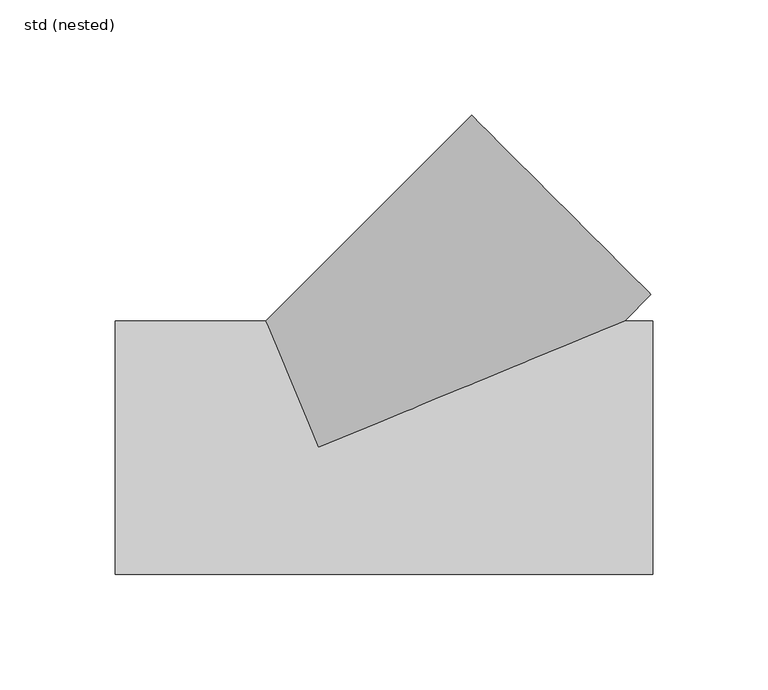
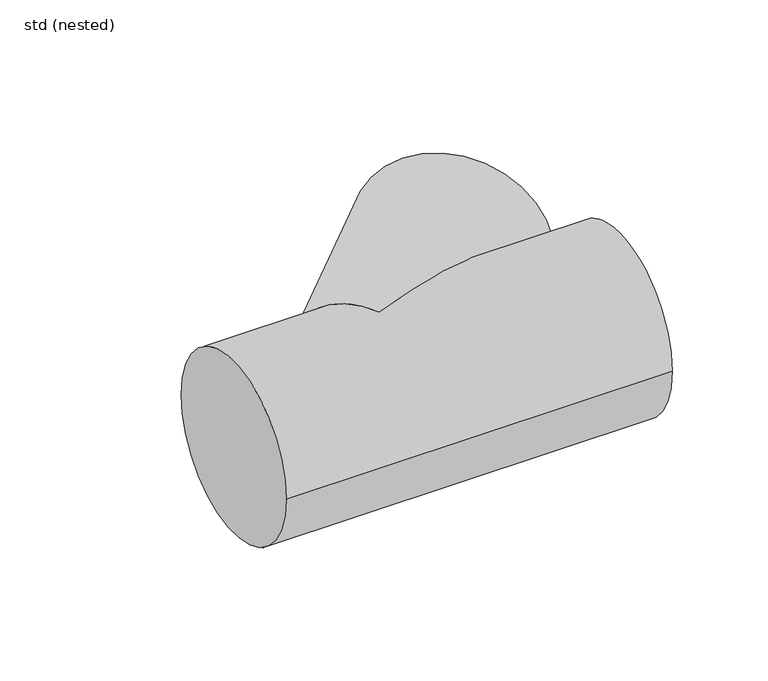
"""IFC4 building model written with IfcOpenShell, lengths in millimetres: pipe fitting geometry, ZZZ_do not use_PIF_ST_UN_ACO pipe branch_ACO : std (nested)."""

from ifc_helpers import new_model, si_unit, frame, origin, place, context, project, spatial, circle_curve, ellipse_curve, source, transform, mapped, element, save
from ifc_brep_helpers import plane_surface, cylinder_surface, advanced_brep


def std_nested_1dc62a2a(model_context):
    return source(origin(), model_context, "Body", "AdvancedBrep", [
        advanced_brep(
        [(145.0, -55.0, 0.0), (145.0, 55.0, 0.0), (-88.0, -55.0, 0.0), (-88.0, 55.0, 0.0), (-22.7787438, 55.0, 0.0), (0.0, 0.0, -55.0), (132.7992457, 55.0, 0.0), (0.0, 0.0, 55.0), (144.2559763, 66.4545957, 0.0), (66.4814785, 144.2435891, 0.0)],
        [
            (0, 1, circle_curve(frame((145.0, 0.0, 0.0), z_axis=(1.0, 0.0, 0.0), x_axis=(0.0, 1.0, 0.0)), 55.0)),
            (1, 0, circle_curve(frame((145.0, 0.0, 0.0), z_axis=(1.0, 0.0, 0.0), x_axis=(0.0, 1.0, 0.0)), 55.0)),
            (2, 3, circle_curve(frame((-88.0, 0.0, 0.0), z_axis=(-1.0, 0.0, 0.0), x_axis=(0.0, 1.0, 0.0)), 55.0)),
            (3, 2, circle_curve(frame((-88.0, 0.0, 0.0), z_axis=(-1.0, 0.0, 0.0), x_axis=(0.0, 1.0, 0.0)), 55.0)),
            (0, 2),
            (3, 4),
            (4, 5, ellipse_curve(frame((0.0, 0.0, 0.0), z_axis=(-0.9238973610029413, -0.3826403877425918, 0.0), x_axis=(0.3826403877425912, -0.9238973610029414, 0.0)), 59.5304222, 55.0)),
            (5, 6, ellipse_curve(frame((0.0, 0.0, 0.0), z_axis=(0.38264038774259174, -0.9238973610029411, 0.0), x_axis=(0.9238973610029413, 0.3826403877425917, 0.0)), 143.7380939, 55.0)),
            (6, 1),
            (6, 7, ellipse_curve(frame((0.0, 0.0, 0.0), z_axis=(0.38264038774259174, -0.9238973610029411, 0.0), x_axis=(0.9238973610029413, 0.3826403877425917, 0.0)), 143.7380939, 55.0)),
            (7, 4, ellipse_curve(frame((0.0, 0.0, 0.0), z_axis=(-0.9238973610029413, -0.3826403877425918, 0.0), x_axis=(0.3826403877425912, -0.9238973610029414, 0.0)), 59.5304222, 55.0)),
            (8, 9, circle_curve(frame((105.3687274, 105.3490924, 0.0), z_axis=(0.707172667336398, 0.7070408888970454, 0.0), x_axis=(-0.7070408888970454, 0.707172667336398, 0.0)), 55.0)),
            (9, 8, circle_curve(frame((105.3687274, 105.3490924, 0.0), z_axis=(0.707172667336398, 0.7070408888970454, 0.0), x_axis=(-0.7070408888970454, 0.707172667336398, 0.0)), 55.0)),
            (9, 4),
            (6, 8),
        ],
        [
            plane_surface(frame((145.0, 55.0, 0.0), z_axis=(1.0, 0.0, 0.0), x_axis=(0.0, 0.0, 1.0))),
            plane_surface(frame((-88.0, 55.0, 0.0), z_axis=(-1.0, 0.0, 0.0), x_axis=(0.0, 0.0, -1.0))),
            cylinder_surface(frame((-88.0, 0.0, 0.0), z_axis=(1.0, 0.0, 0.0), x_axis=(0.0, 1.0, 0.0)), 55.0),
            plane_surface(frame((105.3687274, 105.3490924, 0.0), z_axis=(0.7071726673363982, 0.7070408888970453, 0.0), x_axis=(0.0, 0.0, 1.0))),
            cylinder_surface(frame((0.0, 0.0, 0.0), z_axis=(-0.707172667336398, -0.7070408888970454, 0.0), x_axis=(-0.7070408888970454, 0.707172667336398, 0.0)), 55.0),
        ],
        [
            (0, [[1, 2]]),
            (1, [[3, 4]]),
            (2, [[-1, 5, -4, 6, 7, 8, 9]]),
            (2, [[-2, -9, 10, 11, -6, -3, -5]]),
            (3, [[12, 13]]),
            (4, [[-13, 14, -11, -10, 15]]),
            (4, [[-12, -15, -8, -7, -14]]),
        ],
    ),
    ])


if __name__ == "__main__":
    model = new_model("IFC4")
    model_context = context("Model", 3, world=origin())
    ifc_project = project(units=[si_unit("LENGTHUNIT", "METRE", prefix="MILLI")], contexts=[model_context])
    site = spatial("IfcSite", under=ifc_project)
    building = spatial("IfcBuilding", under=site)
    placement = place(None, origin())
    std_nested_shape = std_nested_1dc62a2a(model_context)
    element("IfcPipeFitting", 1, ObjectType="ZZZ_do not use_PIF_ST_UN_ACO pipe branch_ACO : std (nested)", at=placement, inside=building, context=model_context, shape_type="MappedRepresentation", body=[
        mapped(std_nested_shape, transform((0.0, 0.0, 0.0), x_axis=(1.0, 0.0, 0.0), y_axis=(0.0, 1.0, 0.0), z_axis=(0.0, 0.0, 1.0))),
    ])
    save(model, "model.ifc")
